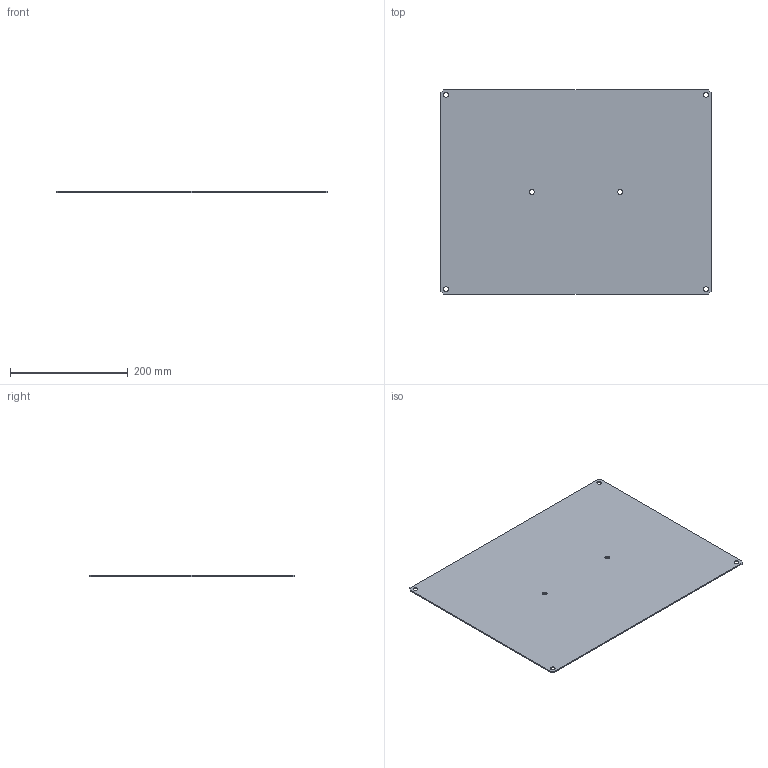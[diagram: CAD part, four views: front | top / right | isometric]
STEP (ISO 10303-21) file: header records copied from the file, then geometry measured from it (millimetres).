
FILE_DESCRIPTION (( 'STEP AP203' ), '1' );
FILE_NAME ('CN5054MP.STEP', '2021-07-01T11:54:29', ( 'vlan4e' ), ( '' ), 'SwSTEP 2.0', 'SolidWorks 2020', '' );
FILE_SCHEMA (( 'CONFIG_CONTROL_DESIGN' ));
Length unit declared in the file: millimetre
Products named in the file (1): CN5054MP
Bounding box: 460 x 348 x 2 mm (x, y, z)
Volume: 319456.8 mm3; surface area: 322967 mm2
Topology: 1 solids, 1 shells, 22 faces, 60 edges, 40 vertices
Faces by surface type: cylinder 12, plane 10
Entity records: 809 total; most frequent: DIRECTION 130, CARTESIAN_POINT 123, ORIENTED_EDGE 120, EDGE_CURVE 60, AXIS2_PLACEMENT_3D 47, VERTEX_POINT 40, VECTOR 36, LINE 36
